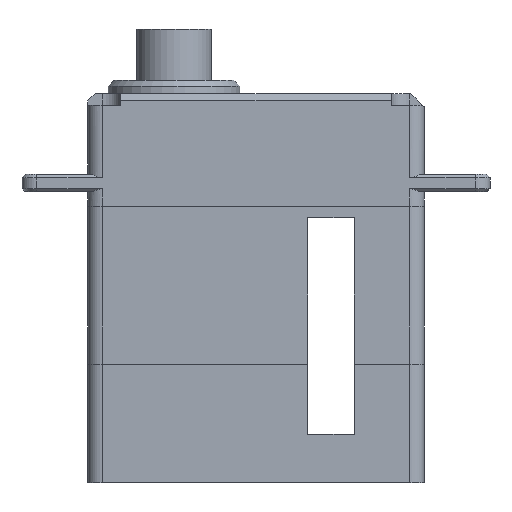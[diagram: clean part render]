
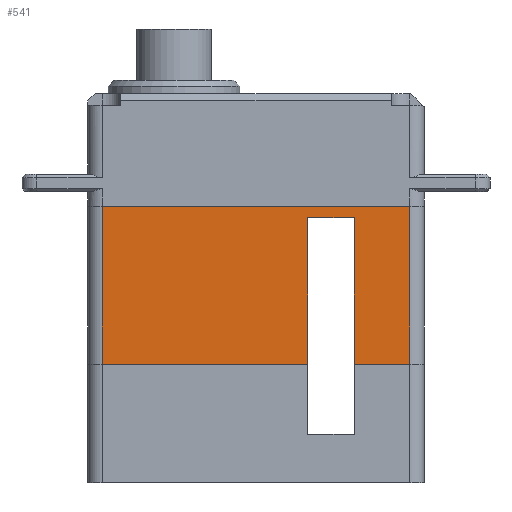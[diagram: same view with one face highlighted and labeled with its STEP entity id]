
A CAD part, front view. The second image highlights one B-rep face of the part: STEP entity #541.
In plain terms, the highlighted planar face has unit normal (0, -1, 0).
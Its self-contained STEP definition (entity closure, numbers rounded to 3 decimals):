
#541 = ADVANCED_FACE ( 'NONE', ( #10657 ), #2310, .T. ) ;
#742 = EDGE_CURVE ( 'NONE', #10656, #9724, #1658, .T. ) ;
#1397 = EDGE_CURVE ( 'NONE', #10656, #6186, #7682, .T. ) ;
#1658 = LINE ( 'NONE', #7216, #4625 ) ;
#1796 = EDGE_CURVE ( 'NONE', #6186, #4780, #4920, .T. ) ;
#1988 = CARTESIAN_POINT ( 'NONE',  ( 0., -6., -10.8 ) ) ;
#1991 = CARTESIAN_POINT ( 'NONE',  ( 0., -6., 0. ) ) ;
#2070 = EDGE_LOOP ( 'NONE', ( #10868, #6137, #8278, #9826, #7592, #6589, #5403, #3449 ) ) ;
#2310 = PLANE ( 'NONE',  #9285 ) ;
#2359 = VECTOR ( 'NONE', #7708, 1000. ) ;
#3197 = CARTESIAN_POINT ( 'NONE',  ( 6.725, -6., 0. ) ) ;
#3449 = ORIENTED_EDGE ( 'NONE', *, *, #742, .F. ) ;
#3534 = VECTOR ( 'NONE', #7826, 1000. ) ;
#3944 = CARTESIAN_POINT ( 'NONE',  ( 6.725, -6., -10.8 ) ) ;
#4171 = DIRECTION ( 'NONE',  ( 0., -1., 0. ) ) ;
#4329 = EDGE_CURVE ( 'NONE', #4780, #5987, #11206, .T. ) ;
#4625 = VECTOR ( 'NONE', #5420, 1000. ) ;
#4689 = CARTESIAN_POINT ( 'NONE',  ( 10.5, -6., -10.8 ) ) ;
#4769 = VECTOR ( 'NONE', #9916, 1000. ) ;
#4780 = VERTEX_POINT ( 'NONE', #10579 ) ;
#4873 = EDGE_CURVE ( 'NONE', #6151, #8379, #8818, .T. ) ;
#4920 = LINE ( 'NONE', #8015, #4769 ) ;
#4989 = CARTESIAN_POINT ( 'NONE',  ( -10.5, -6., 0. ) ) ;
#5059 = LINE ( 'NONE', #4989, #6664 ) ;
#5107 = CARTESIAN_POINT ( 'NONE',  ( 11.5, -6., 0. ) ) ;
#5158 = VECTOR ( 'NONE', #6107, 1000. ) ;
#5403 = ORIENTED_EDGE ( 'NONE', *, *, #6375, .T. ) ;
#5420 = DIRECTION ( 'NONE',  ( -1., 0., 0. ) ) ;
#5987 = VERTEX_POINT ( 'NONE', #3944 ) ;
#6107 = DIRECTION ( 'NONE',  ( -1., 0., 0. ) ) ;
#6137 = ORIENTED_EDGE ( 'NONE', *, *, #1796, .T. ) ;
#6151 = VERTEX_POINT ( 'NONE', #6338 ) ;
#6186 = VERTEX_POINT ( 'NONE', #10906 ) ;
#6338 = CARTESIAN_POINT ( 'NONE',  ( 10.5, -6., 0. ) ) ;
#6375 = EDGE_CURVE ( 'NONE', #8379, #9724, #5059, .T. ) ;
#6589 = ORIENTED_EDGE ( 'NONE', *, *, #4873, .T. ) ;
#6664 = VECTOR ( 'NONE', #9666, 1000. ) ;
#6791 = VECTOR ( 'NONE', #7689, 1000. ) ;
#6930 = EDGE_CURVE ( 'NONE', #11447, #5987, #11520, .T. ) ;
#7000 = CARTESIAN_POINT ( 'NONE',  ( -10.5, -6., -10.8 ) ) ;
#7216 = CARTESIAN_POINT ( 'NONE',  ( 0., -6., -10.8 ) ) ;
#7348 = LINE ( 'NONE', #10636, #2359 ) ;
#7592 = ORIENTED_EDGE ( 'NONE', *, *, #8179, .T. ) ;
#7682 = LINE ( 'NONE', #9072, #8123 ) ;
#7689 = DIRECTION ( 'NONE',  ( -1., 0., 0. ) ) ;
#7708 = DIRECTION ( 'NONE',  ( 0., 0., 1. ) ) ;
#7826 = DIRECTION ( 'NONE',  ( 0., 0., -1. ) ) ;
#8015 = CARTESIAN_POINT ( 'NONE',  ( 0.065, -6., -0.785 ) ) ;
#8123 = VECTOR ( 'NONE', #10034, 1000. ) ;
#8179 = EDGE_CURVE ( 'NONE', #11447, #6151, #7348, .T. ) ;
#8278 = ORIENTED_EDGE ( 'NONE', *, *, #4329, .T. ) ;
#8379 = VERTEX_POINT ( 'NONE', #9180 ) ;
#8818 = LINE ( 'NONE', #1991, #5158 ) ;
#9072 = CARTESIAN_POINT ( 'NONE',  ( 3.525, -6., 0. ) ) ;
#9180 = CARTESIAN_POINT ( 'NONE',  ( -10.5, -6., 0. ) ) ;
#9285 = AXIS2_PLACEMENT_3D ( 'NONE', #5107, #4171, #9830 ) ;
#9666 = DIRECTION ( 'NONE',  ( 0., 0., -1. ) ) ;
#9724 = VERTEX_POINT ( 'NONE', #7000 ) ;
#9826 = ORIENTED_EDGE ( 'NONE', *, *, #6930, .F. ) ;
#9830 = DIRECTION ( 'NONE',  ( 0., 0., -1. ) ) ;
#9916 = DIRECTION ( 'NONE',  ( 1., 0., 0. ) ) ;
#10034 = DIRECTION ( 'NONE',  ( 0., 0., 1. ) ) ;
#10579 = CARTESIAN_POINT ( 'NONE',  ( 6.725, -6., -0.785 ) ) ;
#10636 = CARTESIAN_POINT ( 'NONE',  ( 10.5, -6., 0. ) ) ;
#10656 = VERTEX_POINT ( 'NONE', #11511 ) ;
#10657 = FACE_OUTER_BOUND ( 'NONE', #2070, .T. ) ;
#10868 = ORIENTED_EDGE ( 'NONE', *, *, #1397, .T. ) ;
#10906 = CARTESIAN_POINT ( 'NONE',  ( 3.525, -6., -0.785 ) ) ;
#11206 = LINE ( 'NONE', #3197, #3534 ) ;
#11447 = VERTEX_POINT ( 'NONE', #4689 ) ;
#11511 = CARTESIAN_POINT ( 'NONE',  ( 3.525, -6., -10.8 ) ) ;
#11520 = LINE ( 'NONE', #1988, #6791 ) ;
